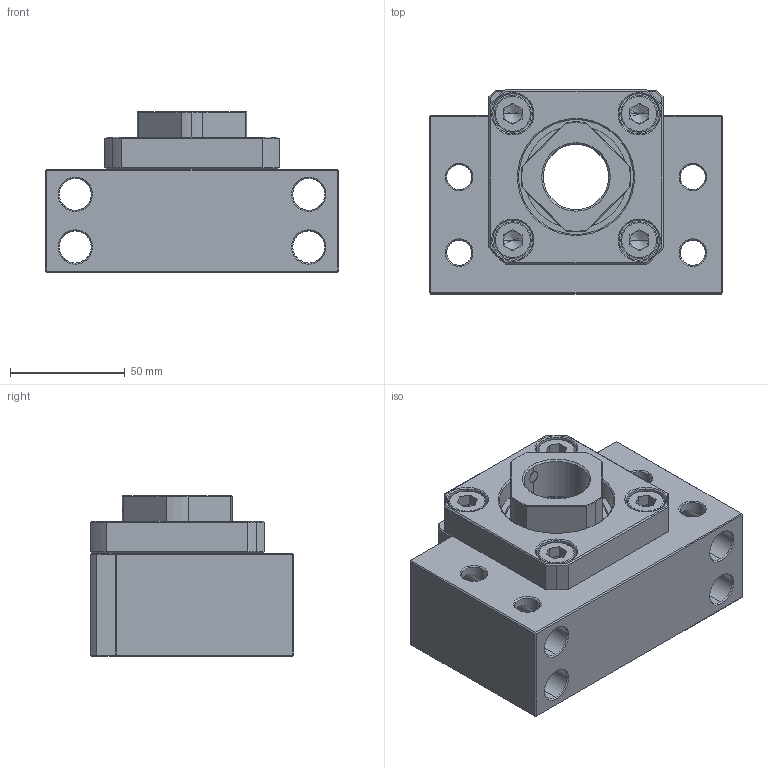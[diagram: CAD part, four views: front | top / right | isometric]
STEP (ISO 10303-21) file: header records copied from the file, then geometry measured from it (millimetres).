
FILE_DESCRIPTION (( 'STEP AP203' ), '1' );
FILE_NAME ('BSGK-30_203.STEP', '2013-02-26T01:22:45', ( '' ), ( '' ), 'SwSTEP 2.0', 'SolidWorks 2012', '' );
FILE_SCHEMA (( 'CONFIG_CONTROL_DESIGN' ));
Length unit declared in the file: millimetre
Products named in the file (1): BSGK-30_203
Bounding box: 128 x 89 x 70 mm (x, y, z)
Volume: 457762.7 mm3; surface area: 82104.1 mm2
Topology: 1 solids, 16 shells, 472 faces, 1080 edges, 628 vertices
Faces by surface type: plane 169, cylinder 143, cone 120, torus 40
Entity records: 14584 total; most frequent: CARTESIAN_POINT 3800, DIRECTION 2357, ORIENTED_EDGE 2124, EDGE_CURVE 1062, AXIS2_PLACEMENT_3D 925, VERTEX_POINT 628, EDGE_LOOP 532, VECTOR 507
